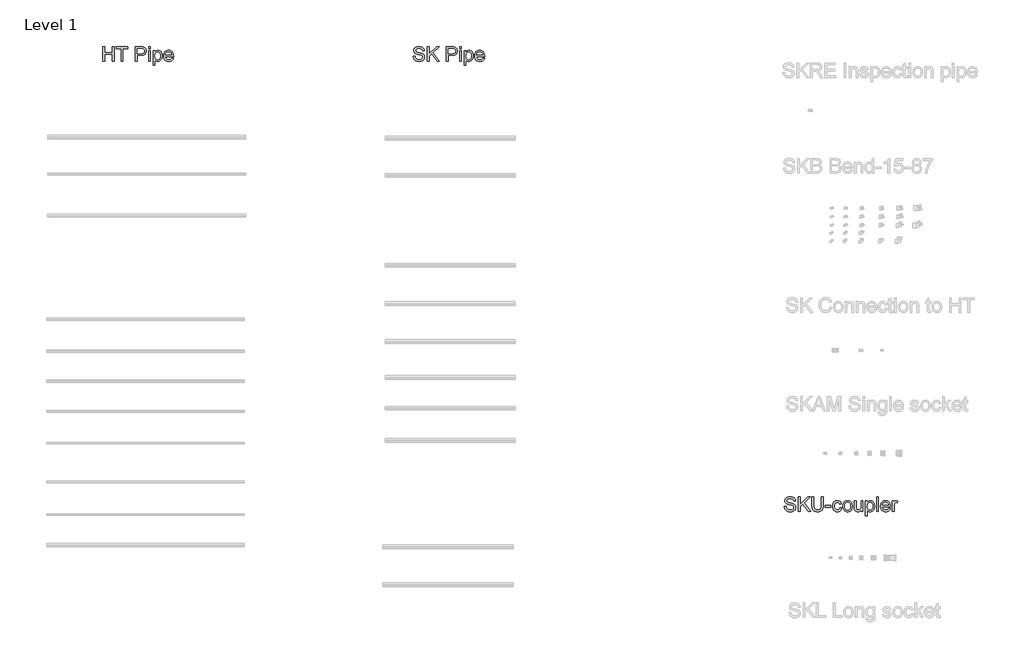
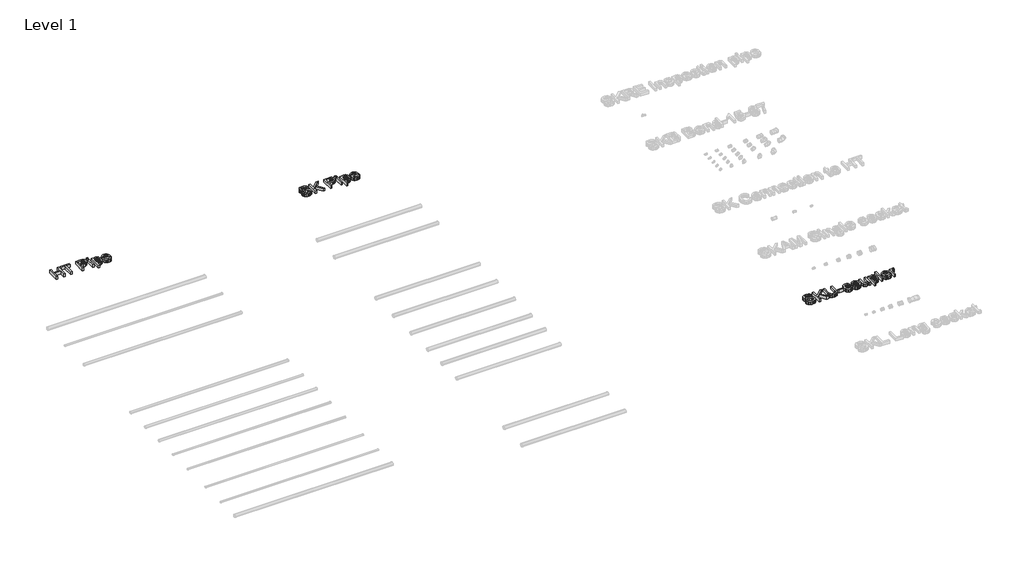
# One storey, part 16 of 29: 3 proxies.
"""IFC4 building model written with IfcOpenShell, lengths in millimetres."""

from ifc_helpers import new_model, si_unit, origin, origin_with_axes, place, context, project, spatial, polyline, outline, extrude, element, save

model = new_model("IFC4")

# Units and contexts
model_context = context("Model", 3, world=origin())
ifc_project = project(units=[si_unit("LENGTHUNIT", "METRE", prefix="MILLI")], contexts=[model_context])

# Site, building, storey
site = spatial("IfcSite", under=ifc_project)
building = spatial("IfcBuilding", under=site)
storey = spatial("IfcBuildingStorey", under=building, Name="Level 1", Elevation=0.0)

# Proxies
placement = place(None, origin())
element("IfcBuildingElementProxy", 1, Name="600mm Arial", ObjectType="600mm Arial", at=placement, inside=storey, context=model_context, shape_type="SweptSolid", body=[
    extrude(outline(polyline([(-32786.4932388, 30809.3981585), (-32786.4932388, 31412.1360194), (-32711.1510061, 31412.1360194), (-32711.1510061, 31167.2737634), (-32390.9465175, 31167.2737634), (-32390.9465175, 31412.1360194), (-32315.6042849, 31412.1360194), (-32315.6042849, 30809.3981585), (-32390.9465175, 30809.3981585), (-32390.9465175, 31091.9315308), (-32711.1510061, 31091.9315308), (-32711.1510061, 30809.3981585), (-32786.4932388, 30809.3981585)])), origin_with_axes(), (0.0, 0.0, 1.0), 150.0),
    extrude(outline(polyline([(-32033.0709126, 30809.3981585), (-32033.0709126, 31336.7937867), (-32230.8442732, 31336.7937867), (-32230.8442732, 31412.1360194), (-31759.9553194, 31412.1360194), (-31759.9553194, 31336.7937867), (-31957.72868, 31336.7937867), (-31957.72868, 30809.3981585), (-32033.0709126, 30809.3981585)])), origin_with_axes(), (0.0, 0.0, 1.0), 150.0),
    extrude(outline(polyline([(-31439.7508308, 30809.3981585), (-31439.7508308, 31412.1360194), (-31216.3728833, 31412.1360194), (-31164.3543692, 31410.7012796), (-31126.3153709, 31406.3970602), (-31086.1610512, 31395.6733001), (-31053.1068539, 31378.2172994), (-31026.4905915, 31353.2381119), (-31005.6500765, 31319.9447914), (-30992.1855955, 31280.6733884), (-30987.6974351, 31237.7599536), (-30990.7278631, 31200.760222), (-30999.8191469, 31166.7219404), (-31014.9712866, 31135.6451088), (-31036.1842821, 31107.5297274), (-31065.3067406, 31084.224403), (-31104.1872689, 31067.5777427), (-31152.8258672, 31057.5897465), (-31211.2225354, 31054.2604145), (-31364.4085982, 31054.2604145), (-31364.4085982, 30809.3981585), (-31439.7508308, 30809.3981585)]), holes=[polyline([(-31364.4085982, 31129.6026471), (-31206.8079515, 31129.6026471), (-31170.5715749, 31131.3316924), (-31140.0005811, 31136.5188286), (-31115.0949701, 31145.1640555), (-31095.8547417, 31157.2673731), (-31081.4981469, 31172.5068848), (-31071.2434362, 31190.5606937), (-31065.0906099, 31211.4287998), (-31063.0396678, 31235.1112033), (-31067.877316, 31268.9563468), (-31082.3902607, 31297.5039897), (-31104.7758801, 31318.9882982), (-31133.2315524, 31331.6434388), (-31162.2942301, 31335.5061998), (-31208.573785, 31336.7937867), (-31364.4085982, 31336.7937867), (-31364.4085982, 31129.6026471)])]), origin_with_axes(), (0.0, 0.0, 1.0), 150.0),
    extrude(outline(polyline([(-30893.5196444, 31336.7937867), (-30893.5196444, 31412.1360194), (-30818.1774118, 31412.1360194), (-30818.1774118, 31336.7937867), (-30893.5196444, 31336.7937867)])), origin_with_axes(), (0.0, 0.0, 1.0), 150.0),
    extrude(outline(polyline([(-30893.5196444, 30809.3981585), (-30893.5196444, 31252.0337751), (-30818.1774118, 31252.0337751), (-30818.1774118, 30809.3981585), (-30893.5196444, 30809.3981585)])), origin_with_axes(), (0.0, 0.0, 1.0), 150.0),
    extrude(outline(polyline([(-30705.1640628, 30639.8781351), (-30705.1640628, 31252.0337751), (-30629.8218302, 31252.0337751), (-30629.8218302, 31178.1630704), (-30605.247313, 31214.6017821), (-30577.7297397, 31240.6294332), (-30545.6504297, 31256.2460239), (-30507.3907022, 31261.4515541), (-30481.1147307, 31259.6305383), (-30456.4390459, 31254.1674906), (-30433.3636478, 31245.0624113), (-30411.8885363, 31232.3153001), (-30392.482761, 31216.257251), (-30375.6153716, 31197.2193578), (-30361.2863679, 31175.2016204), (-30349.4957499, 31150.2040388), (-30333.7136123, 31094.6906457), (-30328.4528998, 31034.1004811), (-30334.394194, 30969.6659497), (-30341.8208118, 30940.0008653), (-30352.2180767, 30912.0372351), (-30365.4434344, 30886.5062247), (-30381.3543307, 30864.1389993), (-30399.9507655, 30844.9355592), (-30421.232739, 30828.8959042), (-30444.1563858, 30816.2453621), (-30467.6778409, 30807.2092606), (-30491.7971042, 30801.7875997), (-30516.5141757, 30799.9803794), (-30551.1502656, 30804.8180276), (-30582.0707473, 30819.3309723), (-30608.5398568, 30841.2383451), (-30629.8218302, 30868.2592777), (-30629.8218302, 30639.8781351), (-30705.1640628, 30639.8781351)]), holes=[polyline([(-30629.8218302, 31027.1842996), (-30627.7846837, 30990.8743467), (-30621.673244, 30959.6411653), (-30611.4875113, 30933.4847554), (-30597.2274855, 30912.4051171), (-30580.0611919, 30896.1815211), (-30561.1566558, 30884.5932383), (-30540.5138774, 30877.6402686), (-30518.1328565, 30875.322612), (-30495.4299389, 30877.723042), (-30474.4100814, 30884.9243321), (-30455.073284, 30896.9264822), (-30437.4195468, 30913.7294923), (-30422.7088655, 30935.5724858), (-30412.201236, 30962.6945859), (-30405.8966583, 30995.0957926), (-30403.7951324, 31032.7761059), (-30405.8460745, 31068.7733592), (-30411.9989009, 31099.9513583), (-30422.2536115, 31126.3101032), (-30436.6102064, 31147.849594), (-30453.8178867, 31164.5882248), (-30472.6258537, 31176.5443897), (-30493.0341074, 31183.7180886), (-30515.0426477, 31186.1093215), (-30536.9822102, 31183.5663372), (-30557.6249887, 31175.9373844), (-30576.9709831, 31163.2224629), (-30595.0201935, 31145.4215729), (-30610.2459096, 31122.7738375), (-30621.121421, 31095.5183802), (-30627.6467279, 31063.6552009), (-30629.8218302, 31027.1842996)])]), origin_with_axes(), (0.0, 0.0, 1.0), 150.0),
    extrude(outline(polyline([(-29933.7890954, 30941.2470655), (-29859.9183907, 30931.8292865), (-29871.2445577, 30902.242377), (-29886.5346531, 30876.1687406), (-29905.788677, 30853.6083772), (-29929.0066294, 30834.5612869), (-29955.949387, 30819.4321399), (-29986.3778266, 30808.6256063), (-30020.291948, 30802.1416861), (-30057.6917513, 30799.9803794), (-30104.4403559, 30803.7097831), (-30146.0937948, 30814.8979943), (-30182.652068, 30833.5450129), (-30214.1151757, 30859.650839), (-30239.4162599, 30892.4889056), (-30257.4884629, 30931.3326458), (-30268.3317847, 30976.1820595), (-30271.9462253, 31027.0371468), (-30268.2949965, 31079.616681), (-30257.3413101, 31125.9606153), (-30239.0851661, 31166.0689498), (-30213.5265645, 31199.9416845), (-30182.1462303, 31226.8522525), (-30146.4248886, 31246.0740867), (-30106.3625393, 31257.6071873), (-30061.9591825, 31261.4515541), (-30018.9859669, 31257.6163843), (-29980.1238327, 31246.1108749), (-29945.3727797, 31226.9350259), (-29914.732808, 31200.0888373), (-29889.7214309, 31166.289679), (-29871.8561615, 31126.2549209), (-29861.1369998, 31079.984563), (-29857.563946, 31027.4786052), (-29858.0054044, 31007.1715191), (-30196.6039927, 31007.1715191), (-30192.2399925, 30977.106363), (-30183.562576, 30950.7752092), (-30170.571743, 30928.1780577), (-30153.2674937, 30909.3149084), (-30132.6063211, 30894.4432787), (-30109.5447186, 30883.8206861), (-30084.082686, 30877.4471305), (-30056.2202234, 30875.322612), (-30016.1210859, 30879.2589493), (-29982.3495187, 30891.0679614), (-29954.9055219, 30911.4854121), (-29933.7890954, 30941.2470655)]), holes=[polyline([(-30196.6039927, 31082.5137517), (-29932.9061786, 31082.5137517), (-29943.0965098, 31122.3185836), (-29951.8612984, 31137.9719625), (-29963.0725022, 31150.79265), (-29983.6187116, 31166.2436938), (-30006.9976124, 31177.2801536), (-30033.2092046, 31183.9020296), (-30062.2534881, 31186.1093215), (-30088.7455903, 31184.3480865), (-30113.0395975, 31179.0643813), (-30135.1355098, 31170.2582061), (-30155.0333273, 31157.9295607), (-30171.7305713, 31142.6486623), (-30184.2247636, 31124.985728), (-30192.515904, 31104.9407578), (-30196.6039927, 31082.5137517)])]), origin_with_axes(), (0.0, 0.0, 1.0), 150.0),
])
element("IfcBuildingElementProxy", 2, Name="600mm Arial", ObjectType="600mm Arial", at=placement, inside=storey, context=model_context, shape_type="SweptSolid", body=[
    extrude(outline(polyline([(-19914.746576, 31016.5892981), (-19839.4043434, 31016.5892981), (-19830.7591165, 30974.7795094), (-19815.1241317, 30941.1734891), (-19790.7335554, 30914.5020445), (-19755.8215541, 30893.4959826), (-19713.1472426, 30879.8659546), (-19665.4697361, 30875.322612), (-19623.4944004, 30878.7623087), (-19586.7429891, 30889.0813986), (-19556.9629416, 30905.4153592), (-19535.9016974, 30926.8996677), (-19523.3753154, 30951.5661555), (-19519.1998548, 30977.4466539), (-19522.3268517, 31002.6649646), (-19531.7078426, 31024.4619728), (-19550.76413, 31043.0584077), (-19582.9170163, 31058.6749984), (-19692.6194273, 31087.4433704), (-19764.6323279, 31106.4812637), (-19810.7095478, 31124.5994519), (-19848.2151172, 31149.9465214), (-19874.7945913, 31180.664668), (-19890.6319112, 31216.0917041), (-19895.9110178, 31255.5654422), (-19894.2785415, 31278.0016454), (-19889.3811124, 31299.6928875), (-19881.2187307, 31320.6391686), (-19869.7913962, 31340.8404887), (-19855.2278677, 31359.4737118), (-19837.6569039, 31375.7157018), (-19817.0785048, 31389.566459), (-19793.4926704, 31401.0259831), (-19740.4808749, 31416.4218446), (-19681.8036966, 31421.5537984), (-19618.2336879, 31416.1827213), (-19562.6099302, 31400.0694899), (-19538.2745362, 31388.0673398), (-19516.9189864, 31373.5451981), (-19498.5432807, 31356.5030646), (-19483.1474192, 31336.9409395), (-19470.8509636, 31315.4290399), (-19461.7734753, 31292.5375827), (-19455.9149546, 31268.2665681), (-19453.2754012, 31242.615996), (-19528.6176339, 31242.615996), (-19533.6576172, 31266.6570844), (-19542.4499969, 31287.5711758), (-19554.9947729, 31305.3582703), (-19571.2919453, 31320.0183678), (-19591.6450167, 31331.4778919), (-19616.3574897, 31339.6632663), (-19645.4293644, 31344.5744909), (-19678.8606407, 31346.2115658), (-19713.3587748, 31344.592885), (-19742.8353196, 31339.7368427), (-19767.2902753, 31331.6434388), (-19786.7236417, 31320.3126734), (-19801.530892, 31306.6918425), (-19812.1074993, 31291.7282423), (-19818.4534638, 31275.4218729), (-19820.5687852, 31257.7727342), (-19819.0696661, 31242.5884048), (-19814.5723087, 31228.8204212), (-19807.0767131, 31216.4687832), (-19796.5828791, 31205.5334909), (-19780.0649776, 31195.1776127), (-19754.0557205, 31184.7113699), (-19673.56314, 31163.4477906), (-19590.4953854, 31143.2510691), (-19540.2427049, 31125.6295215), (-19497.292482, 31098.2958893), (-19480.6872084, 31082.2286431), (-19467.3284935, 31064.5611103), (-19457.0599873, 31045.3852613), (-19449.72534, 31024.7930666), (-19443.8576222, 30979.3596402), (-19445.5452808, 30955.7921999), (-19450.6082568, 30932.9145383), (-19459.04655, 30910.7266555), (-19470.8601606, 30889.2285514), (-19485.8421549, 30869.2525591), (-19503.7855992, 30851.6310115), (-19524.6904936, 30836.3639087), (-19548.556838, 30823.4512507), (-19574.6902552, 30813.1827445), (-19602.396368, 30805.8480972), (-19662.5266801, 30799.9803794), (-19701.0669176, 30801.562272), (-19736.3422024, 30806.3079497), (-19768.3525345, 30814.2174126), (-19797.0979139, 30825.2906607), (-19822.7530846, 30839.546088), (-19845.4927904, 30857.0020886), (-19865.3170314, 30877.6586627), (-19882.2258076, 30901.5158101), (-19895.8466385, 30927.8009786), (-19905.8070435, 30955.7416161), (-19912.1070227, 30985.3377227), (-19914.746576, 31016.5892981)])), origin_with_axes(), (0.0, 0.0, 1.0), 150.0),
    extrude(outline(polyline([(-19330.8442732, 30809.3981585), (-19330.8442732, 31412.1360194), (-19255.5020406, 31412.1360194), (-19255.5020406, 31117.0946592), (-18946.4811647, 31412.1360194), (-18841.1197613, 31412.1360194), (-19100.5501443, 31164.3307074), (-18831.7019822, 30809.3981585), (-18923.8196338, 30809.3981585), (-19153.96661, 31113.4158393), (-19255.5020406, 31016.5892981), (-19255.5020406, 30809.3981585), (-19330.8442732, 30809.3981585)])), origin_with_axes(), (0.0, 0.0, 1.0), 150.0),
    extrude(outline(polyline([(-18539.7508308, 30809.3981585), (-18539.7508308, 31412.1360194), (-18316.3728833, 31412.1360194), (-18264.3543692, 31410.7012796), (-18226.3153709, 31406.3970602), (-18186.1610512, 31395.6733001), (-18153.1068539, 31378.2172994), (-18126.4905915, 31353.2381119), (-18105.6500765, 31319.9447914), (-18092.1855955, 31280.6733884), (-18087.6974351, 31237.7599536), (-18090.7278631, 31200.760222), (-18099.8191469, 31166.7219404), (-18114.9712866, 31135.6451088), (-18136.1842821, 31107.5297274), (-18165.3067406, 31084.224403), (-18204.1872689, 31067.5777427), (-18252.8258672, 31057.5897465), (-18311.2225354, 31054.2604145), (-18464.4085982, 31054.2604145), (-18464.4085982, 30809.3981585), (-18539.7508308, 30809.3981585)]), holes=[polyline([(-18464.4085982, 31129.6026471), (-18306.8079515, 31129.6026471), (-18270.5715749, 31131.3316924), (-18240.0005811, 31136.5188286), (-18215.0949701, 31145.1640555), (-18195.8547417, 31157.2673731), (-18181.4981469, 31172.5068848), (-18171.2434362, 31190.5606937), (-18165.0906099, 31211.4287998), (-18163.0396678, 31235.1112033), (-18167.877316, 31268.9563468), (-18182.3902607, 31297.5039897), (-18204.7758801, 31318.9882982), (-18233.2315524, 31331.6434388), (-18262.2942301, 31335.5061998), (-18308.573785, 31336.7937867), (-18464.4085982, 31336.7937867), (-18464.4085982, 31129.6026471)])]), origin_with_axes(), (0.0, 0.0, 1.0), 150.0),
    extrude(outline(polyline([(-17993.5196444, 30809.3981585), (-17993.5196444, 31252.0337751), (-17918.1774118, 31252.0337751), (-17918.1774118, 30809.3981585), (-17993.5196444, 30809.3981585)])), origin_with_axes(), (0.0, 0.0, 1.0), 150.0),
    extrude(outline(polyline([(-17993.5196444, 31336.7937867), (-17993.5196444, 31412.1360194), (-17918.1774118, 31412.1360194), (-17918.1774118, 31336.7937867), (-17993.5196444, 31336.7937867)])), origin_with_axes(), (0.0, 0.0, 1.0), 150.0),
    extrude(outline(polyline([(-17805.1640628, 30639.8781351), (-17805.1640628, 31252.0337751), (-17729.8218302, 31252.0337751), (-17729.8218302, 31178.1630704), (-17705.247313, 31214.6017821), (-17677.7297397, 31240.6294332), (-17645.6504297, 31256.2460239), (-17607.3907022, 31261.4515541), (-17581.1147307, 31259.6305383), (-17556.4390459, 31254.1674906), (-17533.3636478, 31245.0624113), (-17511.8885363, 31232.3153001), (-17492.482761, 31216.257251), (-17475.6153716, 31197.2193578), (-17461.2863679, 31175.2016204), (-17449.4957499, 31150.2040388), (-17433.7136123, 31094.6906457), (-17428.4528998, 31034.1004811), (-17434.394194, 30969.6659497), (-17441.8208118, 30940.0008653), (-17452.2180767, 30912.0372351), (-17465.4434344, 30886.5062247), (-17481.3543307, 30864.1389993), (-17499.9507655, 30844.9355592), (-17521.232739, 30828.8959042), (-17544.1563858, 30816.2453621), (-17567.6778409, 30807.2092606), (-17591.7971042, 30801.7875997), (-17616.5141757, 30799.9803794), (-17651.1502656, 30804.8180276), (-17682.0707473, 30819.3309723), (-17708.5398568, 30841.2383451), (-17729.8218302, 30868.2592777), (-17729.8218302, 30639.8781351), (-17805.1640628, 30639.8781351)]), holes=[polyline([(-17729.8218302, 31027.1842996), (-17727.7846837, 30990.8743467), (-17721.673244, 30959.6411653), (-17711.4875113, 30933.4847554), (-17697.2274855, 30912.4051171), (-17680.0611919, 30896.1815211), (-17661.1566558, 30884.5932383), (-17640.5138774, 30877.6402686), (-17618.1328565, 30875.322612), (-17595.4299389, 30877.723042), (-17574.4100814, 30884.9243321), (-17555.073284, 30896.9264822), (-17537.4195468, 30913.7294923), (-17522.7088655, 30935.5724858), (-17512.201236, 30962.6945859), (-17505.8966583, 30995.0957926), (-17503.7951324, 31032.7761059), (-17505.8460745, 31068.7733592), (-17511.9989009, 31099.9513583), (-17522.2536115, 31126.3101032), (-17536.6102064, 31147.849594), (-17553.8178867, 31164.5882248), (-17572.6258537, 31176.5443897), (-17593.0341074, 31183.7180886), (-17615.0426477, 31186.1093215), (-17636.9822102, 31183.5663372), (-17657.6249887, 31175.9373844), (-17676.9709831, 31163.2224629), (-17695.0201935, 31145.4215729), (-17710.2459096, 31122.7738375), (-17721.121421, 31095.5183802), (-17727.6467279, 31063.6552009), (-17729.8218302, 31027.1842996)])]), origin_with_axes(), (0.0, 0.0, 1.0), 150.0),
    extrude(outline(polyline([(-17033.7890954, 30941.2470655), (-16959.9183907, 30931.8292865), (-16971.2445577, 30902.242377), (-16986.5346531, 30876.1687406), (-17005.788677, 30853.6083772), (-17029.0066294, 30834.5612869), (-17055.949387, 30819.4321399), (-17086.3778266, 30808.6256063), (-17120.291948, 30802.1416861), (-17157.6917513, 30799.9803794), (-17204.4403559, 30803.7097831), (-17246.0937948, 30814.8979943), (-17282.652068, 30833.5450129), (-17314.1151757, 30859.650839), (-17339.4162599, 30892.4889056), (-17357.4884629, 30931.3326458), (-17368.3317847, 30976.1820595), (-17371.9462253, 31027.0371468), (-17368.2949965, 31079.616681), (-17357.3413101, 31125.9606153), (-17339.0851661, 31166.0689498), (-17313.5265645, 31199.9416845), (-17282.1462303, 31226.8522525), (-17246.4248886, 31246.0740867), (-17206.3625393, 31257.6071873), (-17161.9591825, 31261.4515541), (-17118.9859669, 31257.6163843), (-17080.1238327, 31246.1108749), (-17045.3727797, 31226.9350259), (-17014.732808, 31200.0888373), (-16989.7214309, 31166.289679), (-16971.8561615, 31126.2549209), (-16961.1369998, 31079.984563), (-16957.563946, 31027.4786052), (-16958.0054044, 31007.1715191), (-17296.6039927, 31007.1715191), (-17292.2399925, 30977.106363), (-17283.562576, 30950.7752092), (-17270.571743, 30928.1780577), (-17253.2674937, 30909.3149084), (-17232.6063211, 30894.4432787), (-17209.5447186, 30883.8206861), (-17184.082686, 30877.4471305), (-17156.2202234, 30875.322612), (-17116.1210859, 30879.2589493), (-17082.3495187, 30891.0679614), (-17054.9055219, 30911.4854121), (-17033.7890954, 30941.2470655)]), holes=[polyline([(-17296.6039927, 31082.5137517), (-17032.9061786, 31082.5137517), (-17043.0965098, 31122.3185836), (-17051.8612984, 31137.9719625), (-17063.0725022, 31150.79265), (-17083.6187116, 31166.2436938), (-17106.9976124, 31177.2801536), (-17133.2092046, 31183.9020296), (-17162.2534881, 31186.1093215), (-17188.7455903, 31184.3480865), (-17213.0395975, 31179.0643813), (-17235.1355098, 31170.2582061), (-17255.0333273, 31157.9295607), (-17271.7305713, 31142.6486623), (-17284.2247636, 31124.985728), (-17292.515904, 31104.9407578), (-17296.6039927, 31082.5137517)])]), origin_with_axes(), (0.0, 0.0, 1.0), 150.0),
])
element("IfcBuildingElementProxy", 3, Name="600mm Arial", ObjectType="600mm Arial", at=placement, inside=storey, context=model_context, shape_type="SweptSolid", body=[
    extrude(outline(polyline([(-4523.3542268, 12328.4274422), (-4448.0119942, 12328.4274422), (-4439.3667673, 12286.6176534), (-4423.7317825, 12253.0116332), (-4399.3412062, 12226.3401885), (-4364.4292049, 12205.3341266), (-4321.7548934, 12191.7040987), (-4274.0773869, 12187.160756), (-4232.1020512, 12190.6004527), (-4195.3506399, 12200.9195426), (-4165.5705924, 12217.2535032), (-4144.5093482, 12238.7378117), (-4131.9829662, 12263.4042995), (-4127.8075056, 12289.2847979), (-4130.9345025, 12314.5031086), (-4140.3154934, 12336.3001169), (-4159.3717808, 12354.8965517), (-4191.5246671, 12370.5131424), (-4301.2270781, 12399.2815144), (-4373.2399787, 12418.3194077), (-4419.3171986, 12436.4375959), (-4456.822768, 12461.7846654), (-4483.4022421, 12492.502812), (-4499.239562, 12527.9298481), (-4504.5186686, 12567.4035862), (-4502.8861923, 12589.8397894), (-4497.9887632, 12611.5310316), (-4489.8263815, 12632.4773127), (-4478.399047, 12652.6786327), (-4463.8355185, 12671.3118558), (-4446.2645547, 12687.5538459), (-4425.6861556, 12701.404603), (-4402.1003212, 12712.8641271), (-4349.0885257, 12728.2599886), (-4290.4113474, 12733.3919425), (-4226.8413387, 12728.0208653), (-4171.217581, 12711.9076339), (-4146.882187, 12699.9054838), (-4125.5266372, 12685.3833421), (-4107.1509315, 12668.3412087), (-4091.75507, 12648.7790836), (-4079.4586144, 12627.2671839), (-4070.3811261, 12604.3757267), (-4064.5226054, 12580.1047121), (-4061.883052, 12554.45414), (-4137.2252847, 12554.45414), (-4142.265268, 12578.4952284), (-4151.0576477, 12599.4093198), (-4163.6024237, 12617.1964143), (-4179.8995961, 12631.8565118), (-4200.2526675, 12643.3160359), (-4224.9651405, 12651.5014103), (-4254.0370152, 12656.412635), (-4287.4682915, 12658.0497098), (-4321.9664256, 12656.4310291), (-4351.4429704, 12651.5749867), (-4375.8979261, 12643.4815828), (-4395.3312925, 12632.1508174), (-4410.1385428, 12618.5299865), (-4420.7151501, 12603.5663864), (-4427.0611146, 12587.2600169), (-4429.176436, 12569.6108782), (-4427.6773169, 12554.4265489), (-4423.1799595, 12540.6585652), (-4415.6843639, 12528.3069272), (-4405.1905299, 12517.3716349), (-4388.6726284, 12507.0157567), (-4362.6633713, 12496.549514), (-4282.1707908, 12475.2859346), (-4199.1030362, 12455.0892131), (-4148.8503557, 12437.4676655), (-4105.9001328, 12410.1340333), (-4089.2948592, 12394.0667872), (-4075.9361443, 12376.3992543), (-4065.6676381, 12357.2234053), (-4058.3329908, 12336.6312107), (-4052.465273, 12291.1977843), (-4054.1529316, 12267.6303439), (-4059.2159076, 12244.7526824), (-4067.6542008, 12222.5647995), (-4079.4678114, 12201.0666954), (-4094.4498057, 12181.0907031), (-4112.39325, 12163.4691555), (-4133.2981444, 12148.2020527), (-4157.1644888, 12135.2893947), (-4183.297906, 12125.0208885), (-4211.0040188, 12117.6862412), (-4271.1343309, 12111.8185234), (-4309.6745684, 12113.400416), (-4344.9498532, 12118.1460937), (-4376.9601853, 12126.0555566), (-4405.7055647, 12137.1288047), (-4431.3607354, 12151.384232), (-4454.1004412, 12168.8402327), (-4473.9246822, 12189.4968067), (-4490.8334584, 12213.3539541), (-4504.4542893, 12239.6391226), (-4514.4146943, 12267.5797602), (-4520.7146735, 12297.1758667), (-4523.3542268, 12328.4274422)])), origin_with_axes(), (0.0, 0.0, 1.0), 150.0),
    extrude(outline(polyline([(-3939.451924, 12121.2363025), (-3939.451924, 12723.9741634), (-3864.1096914, 12723.9741634), (-3864.1096914, 12428.9328032), (-3555.0888155, 12723.9741634), (-3449.7274121, 12723.9741634), (-3709.1577951, 12476.1688514), (-3440.309633, 12121.2363025), (-3532.4272846, 12121.2363025), (-3762.5742608, 12425.2539833), (-3864.1096914, 12328.4274422), (-3864.1096914, 12121.2363025), (-3939.451924, 12121.2363025)])), origin_with_axes(), (0.0, 0.0, 1.0), 150.0),
    extrude(outline(polyline([(-2988.2562373, 12723.9741634), (-2912.9140047, 12723.9741634), (-2912.9140047, 12376.2521015), (-2918.0275644, 12294.8214219), (-2924.4195141, 12261.1280297), (-2933.3682436, 12232.1159358), (-2945.6463052, 12206.6860929), (-2962.0262511, 12183.7394535), (-2982.5080811, 12163.2760175), (-3007.0917955, 12145.295785), (-3035.8049852, 12130.649483), (-3068.6752415, 12120.1878388), (-3105.7025643, 12113.9108523), (-3146.8869536, 12111.8185234), (-3187.055069, 12113.6395393), (-3223.3880145, 12119.1025869), (-3255.8857903, 12128.2076663), (-3284.5483962, 12140.9547774), (-3309.3804309, 12157.1553808), (-3330.3864928, 12176.6209369), (-3347.566582, 12199.3514456), (-3360.9206984, 12225.3469071), (-3370.9316872, 12255.4994351), (-3378.0823935, 12290.7011436), (-3382.3728173, 12330.9520324), (-3383.8029585, 12376.2521015), (-3383.8029585, 12723.9741634), (-3308.4607259, 12723.9741634), (-3308.4607259, 12378.9008519), (-3304.7451178, 12311.1921707), (-3293.5982933, 12264.048093), (-3284.8335048, 12246.6702673), (-3273.4015718, 12231.3985659), (-3259.3024943, 12218.232989), (-3242.5362724, 12207.1735366), (-3202.2899821, 12192.1639512), (-3153.9502879, 12187.160756), (-3112.4256077, 12189.6347624), (-3077.3204683, 12197.0567817), (-3048.6348698, 12209.4268138), (-3026.368812, 12226.7448587), (-3009.6945606, 12251.0986468), (-2997.784381, 12284.5759083), (-2990.6382732, 12327.1766434), (-2988.2562373, 12378.9008519), (-2988.2562373, 12723.9741634)])), origin_with_axes(), (0.0, 0.0, 1.0), 150.0),
    extrude(outline(polyline([(-2828.153993, 12300.1741049), (-2828.153993, 12375.5163375), (-2592.7095161, 12375.5163375), (-2592.7095161, 12300.1741049), (-2828.153993, 12300.1741049)])), origin_with_axes(), (0.0, 0.0, 1.0), 150.0),
    extrude(outline(polyline([(-2225.4161321, 12281.3385468), (-2150.0738995, 12271.9207677), (-2158.2684709, 12236.3695714), (-2171.0799614, 12204.9110623), (-2188.508371, 12177.5452404), (-2210.5536995, 12154.2721056), (-2236.2870451, 12135.6986634), (-2264.7795056, 12122.431919), (-2296.0310811, 12114.4718723), (-2330.0417715, 12111.8185234), (-2372.2976172, 12115.520336), (-2410.1848642, 12126.6257737), (-2443.7035125, 12145.1348366), (-2472.8535621, 12171.0475246), (-2496.4485935, 12203.8763942), (-2513.3021874, 12243.1340016), (-2523.4143438, 12288.8203469), (-2526.7850626, 12340.93543), (-2521.0277093, 12407.9819236), (-2513.8310178, 12438.1528458), (-2503.7556497, 12466.0888848), (-2490.732627, 12491.2290206), (-2474.692972, 12513.0122332), (-2455.6366847, 12531.4385227), (-2433.563765, 12546.5078889), (-2409.4720928, 12558.2249305), (-2384.3595481, 12566.5942458), (-2358.2261309, 12571.6158351), (-2331.0718411, 12573.2896982), (-2297.6451633, 12570.9904357), (-2267.4098619, 12564.0926483), (-2240.3659367, 12552.5963359), (-2216.5133878, 12536.5014986), (-2196.2568855, 12516.1760184), (-2180.0010998, 12491.9877772), (-2167.7460308, 12463.9367751), (-2159.4916786, 12432.023012), (-2234.8339112, 12422.6052329), (-2248.5007273, 12455.4754892), (-2269.7827007, 12479.038331), (-2297.5026091, 12493.2201819), (-2330.4832299, 12497.9474655), (-2356.0832183, 12495.6206119), (-2379.172412, 12488.6400511), (-2399.7508111, 12477.005783), (-2417.8184156, 12460.7178076), (-2432.5290969, 12439.399046), (-2443.0367264, 12412.6724191), (-2449.3413041, 12380.5379268), (-2451.44283, 12342.9955692), (-2449.3872893, 12304.887593), (-2443.2206674, 12272.3806202), (-2432.9429641, 12245.4746508), (-2418.5541796, 12224.1696847), (-2400.84526, 12207.9782784), (-2380.6071518, 12196.4129882), (-2357.8398548, 12189.4738141), (-2332.5433691, 12187.160756), (-2293.5294835, 12192.9365033), (-2276.6574955, 12200.1561875), (-2261.542144, 12210.2637453), (-2248.6064934, 12223.3695414), (-2238.2736078, 12239.5839403), (-2230.5434874, 12258.9069421), (-2225.4161321, 12281.3385468)])), origin_with_axes(), (0.0, 0.0, 1.0), 150.0),
    extrude(outline(polyline([(-2102.9850041, 12342.5541108), (-2098.910711, 12399.8793227), (-2086.6878317, 12449.2766776), (-2066.3163663, 12490.7461755), (-2037.7963146, 12524.2878164), (-2009.0831249, 12545.7261397), (-1977.390091, 12561.0392277), (-1942.7172129, 12570.2270805), (-1905.0644907, 12573.2896982), (-1863.4984238, 12569.5602944), (-1825.9146795, 12558.3720833), (-1792.3132577, 12539.7250646), (-1762.6941586, 12513.6192385), (-1738.519713, 12480.9375218), (-1721.2522518, 12442.5628312), (-1710.8917751, 12398.4951667), (-1707.4382829, 12348.7345283), (-1708.9649932, 12308.4054646), (-1713.545124, 12272.6197435), (-1721.1786754, 12241.3773651), (-1731.8656474, 12214.6783293), (-1745.4726827, 12191.6167267), (-1761.8664241, 12171.2866479), (-1781.0468716, 12153.688093), (-1803.0140253, 12138.8210619), (-1826.9125594, 12127.0074513), (-1851.8871483, 12118.569158), (-1877.9377921, 12113.5061821), (-1905.0644907, 12111.8185234), (-1947.2375629, 12115.5341316), (-1985.1707952, 12126.680956), (-2018.8641874, 12145.2589968), (-2048.3177396, 12171.2682538), (-2072.2346679, 12204.2672688), (-2089.318188, 12243.8145833), (-2099.5683001, 12289.9101973), (-2102.9850041, 12342.5541108)]), holes=[polyline([(-2027.6427715, 12342.7012636), (-2025.4630707, 12306.1567859), (-2018.9239682, 12274.5143358), (-2008.0254641, 12247.7739132), (-1992.7675584, 12225.9355183), (-1974.2079117, 12208.9715598), (-1953.4041849, 12196.8544466), (-1930.3563779, 12189.5841787), (-1905.0644907, 12187.160756), (-1879.9013622, 12189.5979742), (-1856.9455257, 12196.9096289), (-1836.1969812, 12209.09572), (-1817.6557287, 12226.1562475), (-1802.3978229, 12248.2107731), (-1791.4993188, 12275.3788585), (-1784.9602163, 12307.6605035), (-1782.7805155, 12345.0557083), (-1784.9740119, 12380.4413578), (-1791.5545011, 12411.2560734), (-1802.5219831, 12437.4998552), (-1817.8764579, 12459.1727033), (-1836.4866883, 12476.1366618), (-1857.2214372, 12488.253775), (-1880.0807047, 12495.5240429), (-1905.0644907, 12497.9474655), (-1930.3563779, 12495.5332399), (-1953.4041849, 12488.2905632), (-1974.2079117, 12476.2194352), (-1992.7675584, 12459.319856), (-2008.0254641, 12437.5458405), (-2018.9239682, 12410.8514032), (-2025.4630707, 12379.2365442), (-2027.6427715, 12342.7012636)])]), origin_with_axes(), (0.0, 0.0, 1.0), 150.0),
    extrude(outline(polyline([(-1340.1448989, 12121.2363025), (-1340.1448989, 12197.3142991), (-1367.4049548, 12159.9098972), (-1399.153171, 12133.1924673), (-1435.3895475, 12117.1620094), (-1476.1140843, 12111.8185234), (-1512.8103134, 12115.5709198), (-1546.9681566, 12126.8281088), (-1575.626164, 12143.7506806), (-1595.8228856, 12164.4992251), (-1609.4161253, 12189.6991418), (-1618.2636873, 12219.97583), (-1622.6782712, 12290.0205619), (-1622.6782712, 12563.8719191), (-1547.3360386, 12563.8719191), (-1547.3360386, 12325.4843862), (-1546.1956044, 12277.8068796), (-1542.7743019, 12248.6706256), (-1531.7930243, 12223.0476446), (-1512.9758603, 12203.568293), (-1487.5736085, 12191.2626403), (-1456.8370678, 12187.160756), (-1424.3346935, 12191.3546108), (-1393.9292466, 12203.936175), (-1368.8580886, 12223.7466204), (-1352.3585812, 12249.6271188), (-1343.1983195, 12285.072549), (-1340.1448989, 12333.5777901), (-1340.1448989, 12563.8719191), (-1264.8026663, 12563.8719191), (-1264.8026663, 12121.2363025), (-1340.1448989, 12121.2363025)])), origin_with_axes(), (0.0, 0.0, 1.0), 150.0),
    extrude(outline(polyline([(-1161.2070965, 11951.7162791), (-1161.2070965, 12563.8719191), (-1085.8648639, 12563.8719191), (-1085.8648639, 12490.0012144), (-1061.2903466, 12526.4399261), (-1033.7727733, 12552.4675772), (-1001.6934634, 12568.0841679), (-963.4337359, 12573.2896982), (-937.1577644, 12571.4686823), (-912.4820795, 12566.0056347), (-889.4066814, 12556.9005553), (-867.9315699, 12544.1534441), (-848.5257947, 12528.095395), (-831.6584052, 12509.0575018), (-817.3294015, 12487.0397644), (-805.5387835, 12462.0421828), (-789.7566459, 12406.5287897), (-784.4959334, 12345.9386251), (-790.4372276, 12281.5040937), (-797.8638454, 12251.8390093), (-808.2611103, 12223.8753791), (-821.486468, 12198.3443687), (-837.3973643, 12175.9771434), (-855.9937992, 12156.7737032), (-877.2757726, 12140.7340482), (-900.1994194, 12128.0835061), (-923.7208745, 12119.0474046), (-947.8401378, 12113.6257437), (-972.5572093, 12111.8185234), (-1007.1932992, 12116.6561716), (-1038.1137809, 12131.1691164), (-1064.5828904, 12153.0764892), (-1085.8648639, 12180.0974217), (-1085.8648639, 11951.7162791), (-1161.2070965, 11951.7162791)]), holes=[polyline([(-1085.8648639, 12339.0224436), (-1083.8277173, 12302.7124907), (-1077.7162777, 12271.4793093), (-1067.5305449, 12245.3228995), (-1053.2705191, 12224.2432611), (-1036.1042255, 12208.0196651), (-1017.1996895, 12196.4313823), (-996.556911, 12189.4784126), (-974.1758901, 12187.160756), (-951.4729725, 12189.561186), (-930.453115, 12196.7624761), (-911.1163176, 12208.7646262), (-893.4625804, 12225.5676363), (-878.7518991, 12247.4106298), (-868.2442696, 12274.5327299), (-861.9396919, 12306.9339366), (-859.838166, 12344.61425), (-861.8891081, 12380.6115032), (-868.0419345, 12411.7895023), (-878.2966451, 12438.1482472), (-892.65324, 12459.687738), (-909.8609203, 12476.4263688), (-928.6688873, 12488.3825337), (-949.077141, 12495.5562326), (-971.0856814, 12497.9474655), (-993.0252439, 12495.4044813), (-1013.6680223, 12487.7755284), (-1033.0140167, 12475.0606069), (-1051.0632271, 12457.2597169), (-1066.2889432, 12434.6119815), (-1077.1644547, 12407.3565242), (-1083.6897616, 12375.4933449), (-1085.8648639, 12339.0224436)])]), origin_with_axes(), (0.0, 0.0, 1.0), 150.0),
    extrude(outline(polyline([(-699.7359217, 12121.2363025), (-699.7359217, 12723.9741634), (-624.3936891, 12723.9741634), (-624.3936891, 12121.2363025), (-699.7359217, 12121.2363025)])), origin_with_axes(), (0.0, 0.0, 1.0), 150.0),
    extrude(outline(polyline([(-201.4765475, 12253.0852096), (-127.6058428, 12243.6674305), (-138.9320097, 12214.080521), (-154.2221052, 12188.0068846), (-173.4761291, 12165.4465213), (-196.6940815, 12146.399431), (-223.6368391, 12131.2702839), (-254.0652787, 12120.4637503), (-287.9794001, 12113.9798301), (-325.3792034, 12111.8185234), (-372.127808, 12115.5479271), (-413.7812469, 12126.7361383), (-450.3395201, 12145.3831569), (-481.8026278, 12171.488983), (-507.103712, 12204.3270496), (-525.175915, 12243.1707898), (-536.0192368, 12288.0202035), (-539.6336774, 12338.8752908), (-535.9824486, 12391.454825), (-525.0287622, 12437.7987593), (-506.7726182, 12477.9070939), (-481.2140166, 12511.7798286), (-449.8336824, 12538.6903965), (-414.1123407, 12557.9122308), (-374.0499914, 12569.4453313), (-329.6466346, 12573.2896982), (-286.673419, 12569.4545284), (-247.8112847, 12557.949019), (-213.0602318, 12538.77317), (-182.4202601, 12511.9269814), (-157.408883, 12478.1278231), (-139.5436136, 12438.0930649), (-128.8244519, 12391.822707), (-125.2513981, 12339.3167492), (-125.6928564, 12319.0096631), (-464.2914448, 12319.0096631), (-459.9274446, 12288.944507), (-451.2500281, 12262.6133532), (-438.2591951, 12240.0162017), (-420.9549458, 12221.1530524), (-400.2937732, 12206.2814227), (-377.2321706, 12195.6588301), (-351.7701381, 12189.2852745), (-323.9076754, 12187.160756), (-283.808538, 12191.0970934), (-250.0369708, 12202.9061054), (-222.592974, 12223.3235561), (-201.4765475, 12253.0852096)]), holes=[polyline([(-464.2914448, 12394.3518957), (-200.5936307, 12394.3518957), (-210.7839619, 12434.1567276), (-219.5487505, 12449.8101065), (-230.7599543, 12462.630794), (-251.3061637, 12478.0818378), (-274.6850645, 12489.1182977), (-300.8966567, 12495.7401736), (-329.9409402, 12497.9474655), (-356.4330423, 12496.1862305), (-380.7270496, 12490.9025253), (-402.8229619, 12482.0963501), (-422.7207794, 12469.7677047), (-439.4180234, 12454.4868063), (-451.9122157, 12436.823872), (-460.2033561, 12416.7789018), (-464.2914448, 12394.3518957)])]), origin_with_axes(), (0.0, 0.0, 1.0), 150.0),
    extrude(outline(polyline([(-49.9091654, 12121.2363025), (-49.9091654, 12563.8719191), (16.0152881, 12563.8719191), (16.0152881, 12498.3889239), (40.3690762, 12536.3543458), (62.8098779, 12558.7215711), (85.324256, 12569.6476664), (109.8987733, 12573.2896982), (147.4227368, 12567.4771626), (185.5353115, 12550.0395561), (160.372183, 12482.4964217), (133.8846793, 12494.0847046), (107.3971757, 12497.9474655), (84.9011917, 12494.2318574), (64.7964407, 12483.0850329), (48.5544506, 12465.3531208), (37.6467494, 12441.8822495), (28.4864877, 12399.7965492), (25.4330672, 12353.8848762), (25.4330672, 12121.2363025), (-49.9091654, 12121.2363025)])), origin_with_axes(), (0.0, 0.0, 1.0), 150.0),
])

save(model, "model.ifc")
